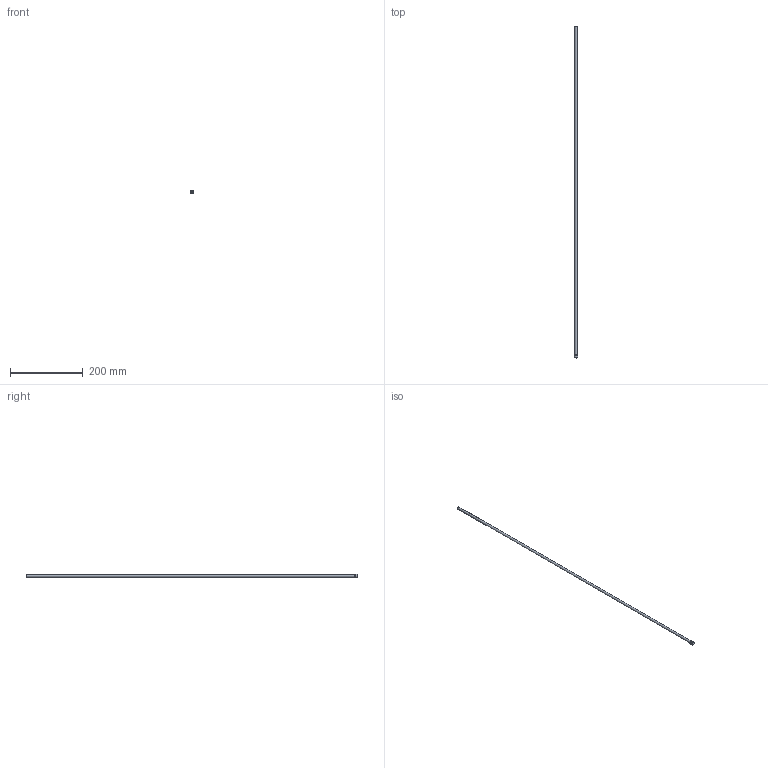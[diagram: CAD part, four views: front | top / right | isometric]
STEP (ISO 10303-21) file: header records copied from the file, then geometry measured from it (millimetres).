
FILE_DESCRIPTION(/* description */ (''),/* implementation_level */ '2;1');
FILE_NAME(/* name */ 'C:/Users/drich/Desktop/PT18-250-36 v1.step',/* time_stamp */ '2019-12-27T15:45:43-06:00',/* author */ (''),/* organization */ (''),/* preprocessor_version */ 'ST-DEVELOPER v18',/* originating_system */ 'Autodesk Translation Framework v8.12.0.6',/* authorisation */ '');
FILE_SCHEMA (('AUTOMOTIVE_DESIGN { 1 0 10303 214 3 1 1 }'));
Length unit declared in the file: inch
Products named in the file (1): PT18-250-36
Bounding box: 9.62 x 914.4 x 9.62 mm (x, y, z)
Volume: 4709.8 mm3; surface area: 35189.9 mm2
Topology: 1 solids, 1 shells, 19 faces, 48 edges, 34 vertices
Faces by surface type: plane 11, cylinder 4, torus 2, cone 2
Full cylindrical faces by diameter (mm): 5.842 x1, 6.35 x1, 7.925 x1, 9.621 x1
Entity records: 633 total; most frequent: DIRECTION 112, CARTESIAN_POINT 102, ORIENTED_EDGE 96, EDGE_CURVE 48, AXIS2_PLACEMENT_3D 44, VERTEX_POINT 34, CIRCLE 24, EDGE_LOOP 24
